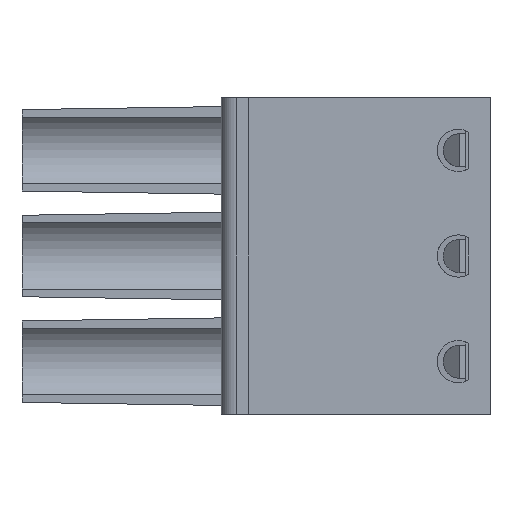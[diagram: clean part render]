
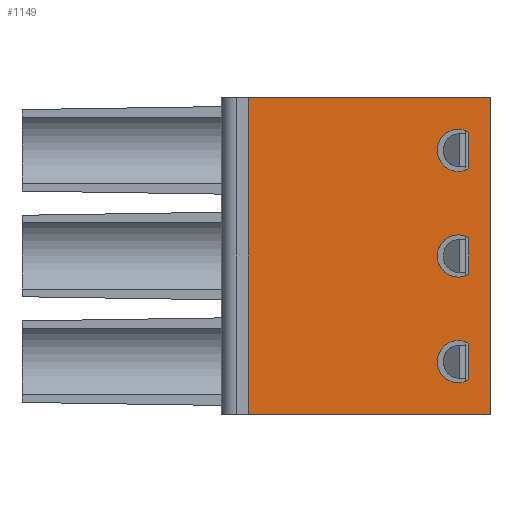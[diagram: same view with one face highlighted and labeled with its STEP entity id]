
A CAD part, front view. The second image highlights one B-rep face of the part: STEP entity #1149.
In plain terms, the highlighted planar face has unit normal (0, -1, 0).
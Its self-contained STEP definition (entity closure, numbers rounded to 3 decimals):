
#1071 = EDGE_CURVE ( 'NONE', #1160, #1159, #10378, .T. ) ;
#1081 = VERTEX_POINT ( 'NONE', #10438 ) ;
#1085 = VERTEX_POINT ( 'NONE', #10426 ) ;
#1093 = EDGE_CURVE ( 'NONE', #1081, #1085, #10424, .T. ) ;
#1137 = EDGE_CURVE ( 'NONE', #1181, #1198, #10522, .T. ) ;
#1139 = EDGE_CURVE ( 'NONE', #1159, #1160, #10516, .T. ) ;
#1141 = EDGE_LOOP ( 'NONE', ( #1146, #1145 ) ) ;
#1143 = ORIENTED_EDGE ( 'NONE', *, *, #1137, .T. ) ;
#1145 = ORIENTED_EDGE ( 'NONE', *, *, #1071, .F. ) ;
#1146 = ORIENTED_EDGE ( 'NONE', *, *, #1139, .F. ) ;
#1149 = ADVANCED_FACE ( 'NONE', ( #10504, #10503, #10502, #10501 ), #10500, .F. ) ;
#1153 = EDGE_LOOP ( 'NONE', ( #1226, #1210 ) ) ;
#1159 = VERTEX_POINT ( 'NONE', #10538 ) ;
#1160 = VERTEX_POINT ( 'NONE', #10537 ) ;
#1162 = EDGE_CURVE ( 'NONE', #1085, #1166, #10536, .T. ) ;
#1165 = ORIENTED_EDGE ( 'NONE', *, *, #1093, .T. ) ;
#1166 = VERTEX_POINT ( 'NONE', #10532 ) ;
#1167 = ORIENTED_EDGE ( 'NONE', *, *, #1171, .F. ) ;
#1168 = ORIENTED_EDGE ( 'NONE', *, *, #1162, .T. ) ;
#1171 = EDGE_CURVE ( 'NONE', #1081, #1174, #10527, .T. ) ;
#1174 = VERTEX_POINT ( 'NONE', #10581 ) ;
#1177 = ORIENTED_EDGE ( 'NONE', *, *, #1180, .F. ) ;
#1179 = EDGE_LOOP ( 'NONE', ( #1177, #1167, #1165, #1168 ) ) ;
#1180 = EDGE_CURVE ( 'NONE', #1174, #1166, #10578, .T. ) ;
#1181 = VERTEX_POINT ( 'NONE', #10574 ) ;
#1198 = VERTEX_POINT ( 'NONE', #10615 ) ;
#1200 = EDGE_CURVE ( 'NONE', #1198, #1181, #10609, .T. ) ;
#1202 = EDGE_LOOP ( 'NONE', ( #1205, #1143 ) ) ;
#1205 = ORIENTED_EDGE ( 'NONE', *, *, #1200, .T. ) ;
#1206 = EDGE_CURVE ( 'NONE', #1209, #1208, #10590, .T. ) ;
#1207 = EDGE_CURVE ( 'NONE', #1208, #1209, #10653, .T. ) ;
#1208 = VERTEX_POINT ( 'NONE', #10648 ) ;
#1209 = VERTEX_POINT ( 'NONE', #10647 ) ;
#1210 = ORIENTED_EDGE ( 'NONE', *, *, #1206, .F. ) ;
#1226 = ORIENTED_EDGE ( 'NONE', *, *, #1207, .F. ) ;
#10375 = DIRECTION ( 'NONE',  ( 0., 0., 1. ) ) ;
#10376 = VECTOR ( 'NONE', #10375, 1000. ) ;
#10377 = CARTESIAN_POINT ( 'NONE',  ( 4.55, 0., 0. ) ) ;
#10378 = LINE ( 'NONE', #10377, #10376 ) ;
#10421 = DIRECTION ( 'NONE',  ( 0., 0., -1. ) ) ;
#10422 = VECTOR ( 'NONE', #10421, 1000. ) ;
#10423 = CARTESIAN_POINT ( 'NONE',  ( -2.75, 0., 0. ) ) ;
#10424 = LINE ( 'NONE', #10423, #10422 ) ;
#10426 = CARTESIAN_POINT ( 'NONE',  ( -2.75, 0., -10.5 ) ) ;
#10438 = CARTESIAN_POINT ( 'NONE',  ( -2.75, 0., 0. ) ) ;
#10461 = CARTESIAN_POINT ( 'NONE',  ( 4.2, 0., -1.75 ) ) ;
#10496 = DIRECTION ( 'NONE',  ( 0., 0., 1. ) ) ;
#10497 = DIRECTION ( 'NONE',  ( 0., 1., 0. ) ) ;
#10498 = CARTESIAN_POINT ( 'NONE',  ( 0., 0., 0. ) ) ;
#10499 = AXIS2_PLACEMENT_3D ( 'NONE', #10498, #10497, #10496 ) ;
#10500 = PLANE ( 'NONE',  #10499 ) ;
#10501 = FACE_BOUND ( 'NONE', #1202, .T. ) ;
#10502 = FACE_BOUND ( 'NONE', #1153, .T. ) ;
#10503 = FACE_OUTER_BOUND ( 'NONE', #1179, .T. ) ;
#10504 = FACE_BOUND ( 'NONE', #1141, .T. ) ;
#10512 = DIRECTION ( 'NONE',  ( 0., 0., 1. ) ) ;
#10513 = DIRECTION ( 'NONE',  ( 0., -1., 0. ) ) ;
#10514 = CARTESIAN_POINT ( 'NONE',  ( 4.2, 0., -8.75 ) ) ;
#10515 = AXIS2_PLACEMENT_3D ( 'NONE', #10514, #10513, #10512 ) ;
#10516 = CIRCLE ( 'NONE', #10515, 0.7 ) ;
#10519 = DIRECTION ( 'NONE',  ( 0., 0., 1. ) ) ;
#10520 = DIRECTION ( 'NONE',  ( 0., 1., 0. ) ) ;
#10521 = AXIS2_PLACEMENT_3D ( 'NONE', #10461, #10520, #10519 ) ;
#10522 = CIRCLE ( 'NONE', #10521, 0.7 ) ;
#10524 = DIRECTION ( 'NONE',  ( 1., 0., 0. ) ) ;
#10525 = VECTOR ( 'NONE', #10524, 1000. ) ;
#10526 = CARTESIAN_POINT ( 'NONE',  ( 0., 0., 0. ) ) ;
#10527 = LINE ( 'NONE', #10526, #10525 ) ;
#10532 = CARTESIAN_POINT ( 'NONE',  ( 5.25, 0., -10.5 ) ) ;
#10533 = DIRECTION ( 'NONE',  ( 1., 0., 0. ) ) ;
#10534 = VECTOR ( 'NONE', #10533, 1000. ) ;
#10535 = CARTESIAN_POINT ( 'NONE',  ( 0., 0., -10.5 ) ) ;
#10536 = LINE ( 'NONE', #10535, #10534 ) ;
#10537 = CARTESIAN_POINT ( 'NONE',  ( 4.55, 0., -9.356 ) ) ;
#10538 = CARTESIAN_POINT ( 'NONE',  ( 4.55, 0., -8.144 ) ) ;
#10574 = CARTESIAN_POINT ( 'NONE',  ( 4.55, 0., -2.356 ) ) ;
#10575 = DIRECTION ( 'NONE',  ( 0., 0., -1. ) ) ;
#10576 = VECTOR ( 'NONE', #10575, 1000. ) ;
#10577 = CARTESIAN_POINT ( 'NONE',  ( 5.25, 0., 0. ) ) ;
#10578 = LINE ( 'NONE', #10577, #10576 ) ;
#10581 = CARTESIAN_POINT ( 'NONE',  ( 5.25, 0., 0. ) ) ;
#10586 = DIRECTION ( 'NONE',  ( 0., 0., 1. ) ) ;
#10587 = VECTOR ( 'NONE', #10586, 1000. ) ;
#10588 = CARTESIAN_POINT ( 'NONE',  ( 4.55, 0., 0. ) ) ;
#10590 = LINE ( 'NONE', #10588, #10587 ) ;
#10606 = DIRECTION ( 'NONE',  ( 0., 0., -1. ) ) ;
#10607 = VECTOR ( 'NONE', #10606, 1000. ) ;
#10608 = CARTESIAN_POINT ( 'NONE',  ( 4.55, 0., 0. ) ) ;
#10609 = LINE ( 'NONE', #10608, #10607 ) ;
#10615 = CARTESIAN_POINT ( 'NONE',  ( 4.55, 0., -1.144 ) ) ;
#10647 = CARTESIAN_POINT ( 'NONE',  ( 4.55, 0., -5.856 ) ) ;
#10648 = CARTESIAN_POINT ( 'NONE',  ( 4.55, 0., -4.644 ) ) ;
#10649 = DIRECTION ( 'NONE',  ( 0., 0., 1. ) ) ;
#10650 = DIRECTION ( 'NONE',  ( 0., -1., 0. ) ) ;
#10651 = CARTESIAN_POINT ( 'NONE',  ( 4.2, 0., -5.25 ) ) ;
#10652 = AXIS2_PLACEMENT_3D ( 'NONE', #10651, #10650, #10649 ) ;
#10653 = CIRCLE ( 'NONE', #10652, 0.7 ) ;
